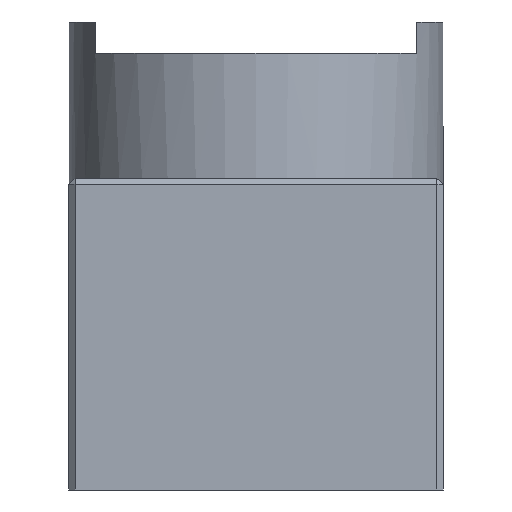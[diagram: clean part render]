
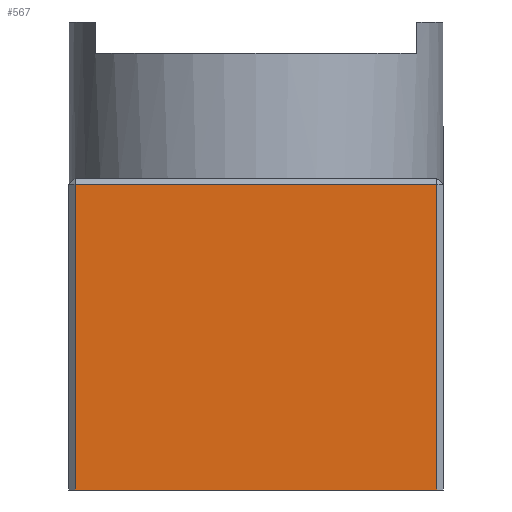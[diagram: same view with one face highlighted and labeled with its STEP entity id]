
A CAD part, left-side view. The second image highlights one B-rep face of the part: STEP entity #567.
In plain terms, the highlighted planar face has unit normal (-1, 0, 0).
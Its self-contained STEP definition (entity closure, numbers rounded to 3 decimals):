
#62=FACE_OUTER_BOUND('',#98,.T.);
#98=EDGE_LOOP('',(#399,#400,#401,#402));
#140=LINE('',#868,#195);
#147=LINE('',#882,#202);
#151=LINE('',#891,#206);
#154=LINE('',#899,#209);
#195=VECTOR('',#689,10.);
#202=VECTOR('',#700,10.);
#206=VECTOR('',#710,10.);
#209=VECTOR('',#719,10.);
#248=VERTEX_POINT('',#861);
#250=VERTEX_POINT('',#866);
#251=VERTEX_POINT('',#871);
#254=VERTEX_POINT('',#878);
#298=EDGE_CURVE('',#250,#248,#140,.T.);
#305=EDGE_CURVE('',#251,#254,#147,.T.);
#310=EDGE_CURVE('',#248,#251,#151,.T.);
#314=EDGE_CURVE('',#250,#254,#154,.T.);
#399=ORIENTED_EDGE('',*,*,#305,.F.);
#400=ORIENTED_EDGE('',*,*,#310,.F.);
#401=ORIENTED_EDGE('',*,*,#298,.F.);
#402=ORIENTED_EDGE('',*,*,#314,.T.);
#538=PLANE('',#628);
#567=ADVANCED_FACE('',(#62),#538,.T.);
#628=AXIS2_PLACEMENT_3D('',#898,#717,#718);
#689=DIRECTION('',(0.,0.,1.));
#700=DIRECTION('',(0.,0.,-1.));
#710=DIRECTION('',(0.,-1.,0.));
#717=DIRECTION('center_axis',(-1.,0.,0.));
#718=DIRECTION('ref_axis',(0.,-1.,0.));
#719=DIRECTION('',(0.,-1.,0.));
#861=CARTESIAN_POINT('',(-17.5,5.8,9.8));
#866=CARTESIAN_POINT('',(-17.5,5.8,0.));
#868=CARTESIAN_POINT('',(-17.5,5.8,0.));
#871=CARTESIAN_POINT('',(-17.5,-5.8,9.8));
#878=CARTESIAN_POINT('',(-17.5,-5.8,0.));
#882=CARTESIAN_POINT('',(-17.5,-5.8,0.));
#891=CARTESIAN_POINT('',(-17.5,3.,9.8));
#898=CARTESIAN_POINT('Origin',(-17.5,6.,0.));
#899=CARTESIAN_POINT('',(-17.5,6.,0.));
